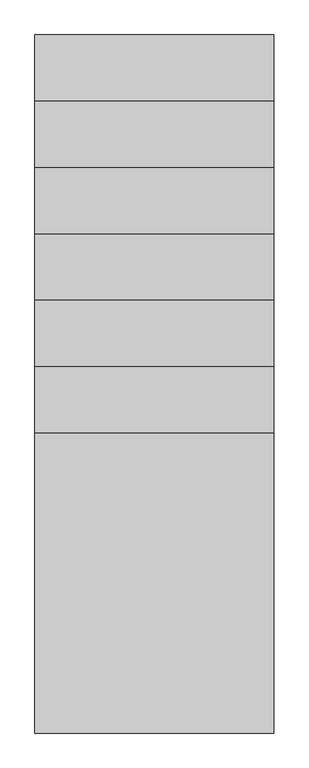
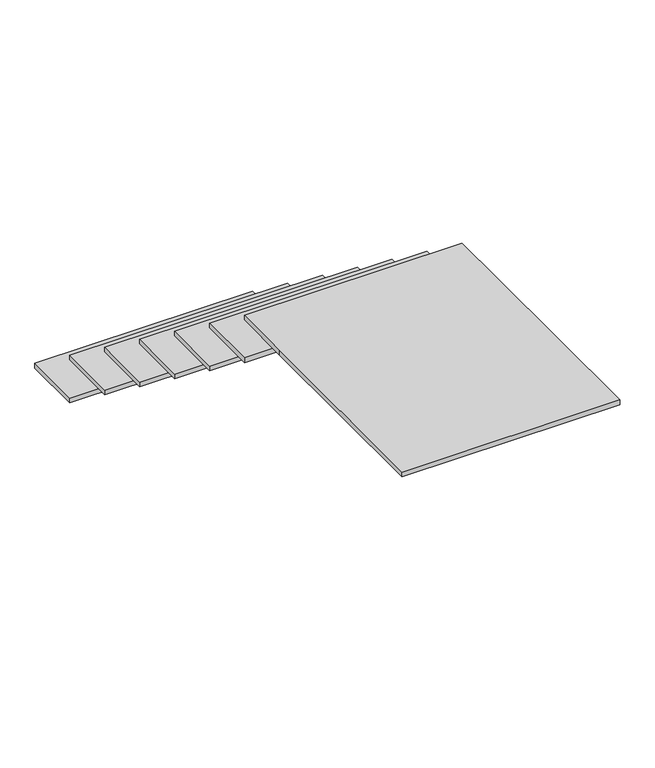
"""IFC4 building model written with IfcOpenShell, lengths in millimetres: stair flight geometry, Peldaños de acero."""

from ifc_helpers import new_model, si_unit, frame, origin, place, context, project, spatial, polyline, outline, extrude, source, transform, mapped, element, save


def stair_flight_92d3cbff(model_context):
    return source(origin(), model_context, "Body", "SweptSolid", [
        extrude(outline(polyline([(-4231.0601801, -5662.6669037), (-5131.0601801, -5662.6669037), (-5131.0601801, -5412.6669037), (-4231.0601801, -5412.6669037), (-4231.0601801, -5662.6669037)])), frame((0.0, 0.0, 4960.0), z_axis=(0.0, 0.0, 1.0), x_axis=(1.0, 0.0, 0.0)), (0.0, 0.0, 1.0), 20.0),
        extrude(outline(polyline([(-4231.0601801, -5912.6669037), (-5131.0601801, -5912.6669037), (-5131.0601801, -5662.6669037), (-4231.0601801, -5662.6669037), (-4231.0601801, -5912.6669037)])), frame((0.0, 0.0, 5146.6666667), z_axis=(0.0, 0.0, 1.0), x_axis=(1.0, 0.0, 0.0)), (0.0, 0.0, 1.0), 20.0),
        extrude(outline(polyline([(-4231.0601801, -6162.6669037), (-5131.0601801, -6162.6669037), (-5131.0601801, -5912.6669037), (-4231.0601801, -5912.6669037), (-4231.0601801, -6162.6669037)])), frame((0.0, 0.0, 5333.3333333), z_axis=(0.0, 0.0, 1.0), x_axis=(1.0, 0.0, 0.0)), (0.0, 0.0, 1.0), 20.0),
        extrude(outline(polyline([(-4231.0601801, -6412.6669037), (-5131.0601801, -6412.6669037), (-5131.0601801, -6162.6669037), (-4231.0601801, -6162.6669037), (-4231.0601801, -6412.6669037)])), frame((0.0, 0.0, 5520.0), z_axis=(0.0, 0.0, 1.0), x_axis=(1.0, 0.0, 0.0)), (0.0, 0.0, 1.0), 20.0),
        extrude(outline(polyline([(-4231.0601801, -6662.6669037), (-5131.0601801, -6662.6669037), (-5131.0601801, -6412.6669037), (-4231.0601801, -6412.6669037), (-4231.0601801, -6662.6669037)])), frame((0.0, 0.0, 5706.6666667), z_axis=(0.0, 0.0, 1.0), x_axis=(1.0, 0.0, 0.0)), (0.0, 0.0, 1.0), 20.0),
        extrude(outline(polyline([(-4231.0601801, -6912.6669037), (-5131.0601801, -6912.6669037), (-5131.0601801, -6662.6669037), (-4231.0601801, -6662.6669037), (-4231.0601801, -6912.6669037)])), frame((0.0, 0.0, 5893.3333333), z_axis=(0.0, 0.0, 1.0), x_axis=(1.0, 0.0, 0.0)), (0.0, 0.0, 1.0), 20.0),
        extrude(outline(polyline([(-4231.0601801, -8042.6669037), (-5131.0601801, -8042.6669037), (-5131.0601801, -7162.6669037), (-5131.0601801, -6912.6669037), (-4231.0601801, -6912.6669037), (-4231.0601801, -7162.6669037), (-4231.0601801, -8042.6669037)])), frame((0.0, 0.0, 6080.0), z_axis=(0.0, 0.0, 1.0), x_axis=(1.0, 0.0, 0.0)), (0.0, 0.0, 1.0), 20.0),
    ])


if __name__ == "__main__":
    model = new_model("IFC4")
    model_context = context("Model", 3, world=origin())
    ifc_project = project(units=[si_unit("LENGTHUNIT", "METRE", prefix="MILLI")], contexts=[model_context])
    site = spatial("IfcSite", under=ifc_project)
    building = spatial("IfcBuilding", under=site)
    placement = place(None, origin())
    stair_flight_shape = stair_flight_92d3cbff(model_context)
    element("IfcStairFlight", 1, ObjectType="Peldaños de acero", at=placement, inside=building, context=model_context, shape_type="MappedRepresentation", body=[
        mapped(stair_flight_shape, transform((0.0, 0.0, 0.0), x_axis=(1.0, 0.0, 0.0), y_axis=(0.0, 1.0, 0.0), z_axis=(0.0, 0.0, 1.0))),
    ])
    save(model, "model.ifc")
